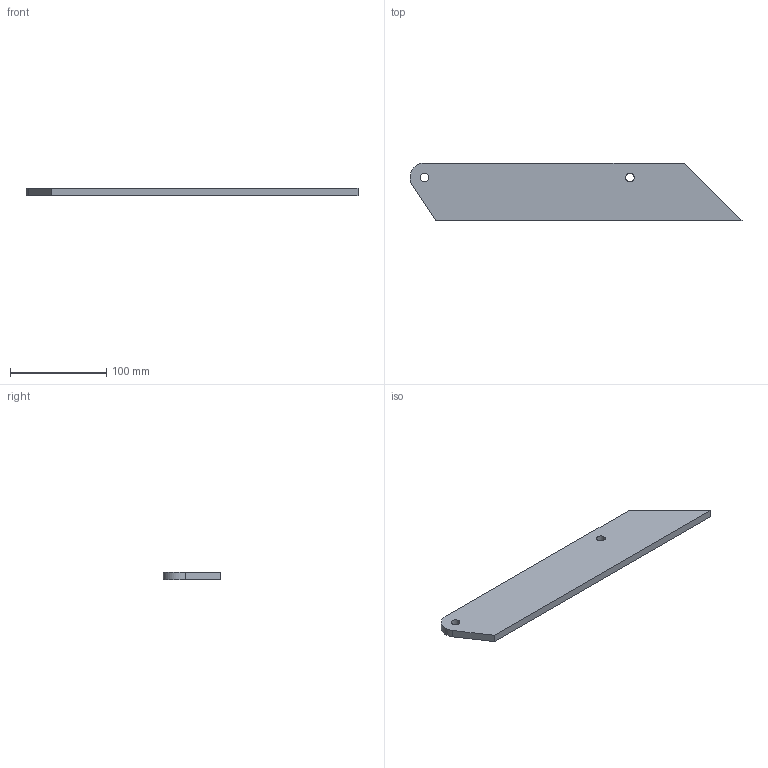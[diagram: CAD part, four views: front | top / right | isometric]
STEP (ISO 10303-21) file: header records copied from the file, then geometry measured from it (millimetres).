
FILE_DESCRIPTION(/* description */ (''),/* implementation_level */ '2;1');
FILE_NAME(/* name */ 'Pos137-Plaatwerk D= 8-S235JRG2-3st',/* time_stamp */ '2024-08-06T13:37:44+02:00',/* author */ (''),/* organization */ (''),/* preprocessor_version */ 'ST-DEVELOPER v16.5',/* originating_system */ 'HiCAD 2024 2901.2 Build 361',/* authorisation */ '');
FILE_SCHEMA (('AUTOMOTIVE_DESIGN { 1 0 10303 214 1 1 1 1 }'));
Length unit declared in the file: millimetre
Products named in the file (1): Pos137-Plaatwerk D= 8-S235JRG2-3st
Bounding box: 344.78 x 60 x 8 mm (x, y, z)
Volume: 145341.8 mm3; surface area: 42780.1 mm2
Topology: 1 solids, 1 shells, 9 faces, 23 edges, 16 vertices
Faces by surface type: plane 6, cylinder 3
Full cylindrical faces by diameter (mm): 9 x2
Entity records: 467 total; most frequent: DIRECTION 43, CARTESIAN_POINT 42, PRESENTATION_STYLE_ASSIGNMENT 39, COLOUR_RGB 39, DRAUGHTING_PRE_DEFINED_CURVE_FONT 38, CURVE_STYLE 38, OVER_RIDING_STYLED_ITEM 38, ORIENTED_EDGE 38
